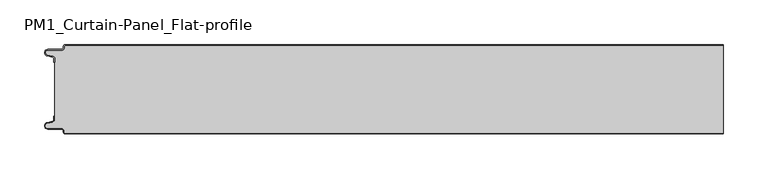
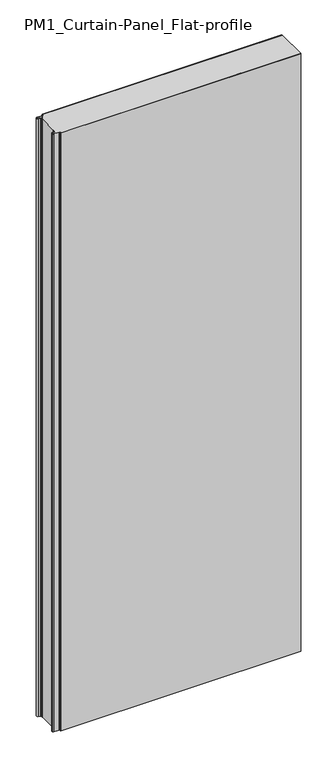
"""IFC4 building model written with IfcOpenShell, lengths in millimetres: plate geometry, PM1_Curtain-Panel_Flat-profile : ACH_PM1_Stone-wool-Panel_100M."""

from ifc_helpers import new_model, si_unit, point, frame_2d, origin, origin_with_axes, place, context, project, spatial, polyline, circle_curve, trimmed, segment, composite_curve, outline, extrude, source, transform, mapped, element, save


def pm1_curtain_panel_flat_profile_1d2014c8(model_context):
    return source(origin(), model_context, "Body", "SweptSolid", [
        extrude(outline(composite_curve([segment(trimmed(circle_curve(frame_2d((-362.4119739, -2.0)), 1.2), [point((-362.4119739, -0.8))], [point((-363.6119739, -2.0))], True, "CARTESIAN"), True, "CONTINUOUS"), segment(polyline([(-363.6119739, -2.0), (-363.6119739, -3.4)]), True, "CONTINUOUS"), segment(trimmed(circle_curve(frame_2d((-366.4119739, -3.4)), 2.8), [point((-363.6119739, -3.4))], [point((-366.4119739, -6.2))], False, "CARTESIAN"), True, "CONTINUOUS"), segment(polyline([(-366.4119739, -6.2), (-381.9119739, -6.2)]), True, "CONTINUOUS"), segment(trimmed(circle_curve(frame_2d((-381.9119739, -9.0)), 2.8), [point((-381.9119739, -6.2))], [point((-382.541837, -11.7282362))], True, "CARTESIAN"), True, "CONTINUOUS"), segment(polyline([(-382.541837, -11.7282362), (-376.3821109, -13.150321)]), True, "CONTINUOUS"), segment(trimmed(circle_curve(frame_2d((-377.0119739, -15.878557)), 2.8), [point((-376.3821109, -13.150321))], [point((-374.2119739, -15.878557))], False, "CARTESIAN"), True, "CONTINUOUS"), segment(polyline([(-374.2119739, -15.878557), (-374.2119739, -20.0), (-375.0119739, -20.0), (-375.0119739, -15.878557)]), True, "CONTINUOUS"), segment(trimmed(circle_curve(frame_2d((-377.0119739, -15.878557)), 2.0), [point((-375.0119739, -15.878557))], [point((-376.5620718, -13.9298169))], True, "CARTESIAN"), True, "CONTINUOUS"), segment(polyline([(-376.5620718, -13.9298169), (-382.7217978, -12.507732)]), True, "CONTINUOUS"), segment(trimmed(circle_curve(frame_2d((-381.9119739, -9.0)), 3.6), [point((-382.7217978, -12.507732))], [point((-381.9119739, -5.4))], False, "CARTESIAN"), True, "CONTINUOUS"), segment(polyline([(-381.9119739, -5.4), (-366.4119739, -5.4)]), True, "CONTINUOUS"), segment(trimmed(circle_curve(frame_2d((-366.4119739, -3.4)), 2.0), [point((-366.4119739, -5.4))], [point((-364.4119739, -3.4))], True, "CARTESIAN"), True, "CONTINUOUS"), segment(polyline([(-364.4119739, -3.4), (-364.4119739, -2.0)]), True, "CONTINUOUS"), segment(trimmed(circle_curve(frame_2d((-362.4119739, -2.0)), 2.0), [point((-364.4119739, -2.0))], [point((-362.4119739, 0.0))], False, "CARTESIAN"), True, "CONTINUOUS"), segment(polyline([(-362.4119739, 0.0), (375.0119739, 0.0), (375.0119739, -0.8), (-362.4119739, -0.8)]), True, "CONTINUOUS")], self_intersect=False)), origin_with_axes(), (0.0, 0.0, 1.0), 1945.7507136),
        extrude(outline(composite_curve([segment(polyline([(-374.2119739, -84.1214426), (-374.2119739, -15.8785573)]), True, "CONTINUOUS"), segment(trimmed(circle_curve(frame_2d((-377.0119739, -15.8785573)), 2.8), [point((-374.2119739, -15.8785573))], [point((-376.3821109, -13.1503212))], True, "CARTESIAN"), True, "CONTINUOUS"), segment(polyline([(-376.3821109, -13.1503212), (-382.541837, -11.7282362)]), True, "CONTINUOUS"), segment(trimmed(circle_curve(frame_2d((-381.911974, -9.0)), 2.8), [point((-382.541837, -11.7282362))], [point((-381.911974, -6.2))], False, "CARTESIAN"), True, "CONTINUOUS"), segment(polyline([(-381.911974, -6.2), (-366.411974, -6.2)]), True, "CONTINUOUS"), segment(trimmed(circle_curve(frame_2d((-366.411974, -3.4)), 2.8), [point((-366.411974, -6.2))], [point((-363.611974, -3.4))], True, "CARTESIAN"), True, "CONTINUOUS"), segment(polyline([(-363.611974, -3.4), (-363.611974, -2.0)]), True, "CONTINUOUS"), segment(trimmed(circle_curve(frame_2d((-362.411974, -2.0)), 1.2), [point((-363.611974, -2.0))], [point((-362.411974, -0.8))], False, "CARTESIAN"), True, "CONTINUOUS"), segment(polyline([(-362.411974, -0.8), (375.0119739, -0.8), (375.0119739, -99.2), (-362.411974, -99.2)]), True, "CONTINUOUS"), segment(trimmed(circle_curve(frame_2d((-362.411974, -98.0)), 1.2), [point((-362.411974, -99.2))], [point((-363.611974, -98.0))], False, "CARTESIAN"), True, "CONTINUOUS"), segment(polyline([(-363.611974, -98.0), (-363.611974, -96.6)]), True, "CONTINUOUS"), segment(trimmed(circle_curve(frame_2d((-366.411974, -96.6)), 2.8), [point((-363.611974, -96.6))], [point((-366.411974, -93.8))], True, "CARTESIAN"), True, "CONTINUOUS"), segment(polyline([(-366.411974, -93.8), (-381.911974, -93.8)]), True, "CONTINUOUS"), segment(trimmed(circle_curve(frame_2d((-381.911974, -91.0)), 2.8), [point((-381.911974, -93.8))], [point((-382.541837, -88.2717638))], False, "CARTESIAN"), True, "CONTINUOUS"), segment(polyline([(-382.541837, -88.2717638), (-376.3821109, -86.8496788)]), True, "CONTINUOUS"), segment(trimmed(circle_curve(frame_2d((-377.0119739, -84.1214426)), 2.8), [point((-376.3821109, -86.8496788))], [point((-374.2119739, -84.1214426))], True, "CARTESIAN"), True, "CONTINUOUS")], self_intersect=False)), origin_with_axes(), (0.0, 0.0, 1.0), 1945.7507136),
        extrude(outline(composite_curve([segment(trimmed(circle_curve(frame_2d((-362.4119739, -98.0)), 2.0), [point((-362.4119739, -100.0))], [point((-364.4119739, -98.0))], False, "CARTESIAN"), True, "CONTINUOUS"), segment(polyline([(-364.4119739, -98.0), (-364.4119739, -96.6)]), True, "CONTINUOUS"), segment(trimmed(circle_curve(frame_2d((-366.4119739, -96.6)), 2.0), [point((-364.4119739, -96.6))], [point((-366.4119739, -94.6))], True, "CARTESIAN"), True, "CONTINUOUS"), segment(polyline([(-366.4119739, -94.6), (-381.9119739, -94.6)]), True, "CONTINUOUS"), segment(trimmed(circle_curve(frame_2d((-381.9119739, -91.0)), 3.6), [point((-381.9119739, -94.6))], [point((-382.7217979, -87.4922678))], False, "CARTESIAN"), True, "CONTINUOUS"), segment(polyline([(-382.7217979, -87.4922678), (-376.5620718, -86.070183)]), True, "CONTINUOUS"), segment(trimmed(circle_curve(frame_2d((-377.0119739, -84.121443)), 2.0), [point((-376.5620718, -86.070183))], [point((-375.0119739, -84.121443))], True, "CARTESIAN"), True, "CONTINUOUS"), segment(polyline([(-375.0119739, -84.121443), (-375.0119739, -80.0), (-374.2119739, -80.0), (-374.2119739, -84.121443)]), True, "CONTINUOUS"), segment(trimmed(circle_curve(frame_2d((-377.0119739, -84.121443)), 2.8), [point((-374.2119739, -84.121443))], [point((-376.3821109, -86.8496792))], False, "CARTESIAN"), True, "CONTINUOUS"), segment(polyline([(-376.3821109, -86.8496792), (-382.5418369, -88.271764)]), True, "CONTINUOUS"), segment(trimmed(circle_curve(frame_2d((-381.9119739, -91.0)), 2.8), [point((-382.5418369, -88.271764))], [point((-381.9119739, -93.8))], True, "CARTESIAN"), True, "CONTINUOUS"), segment(polyline([(-381.9119739, -93.8), (-366.4119739, -93.8)]), True, "CONTINUOUS"), segment(trimmed(circle_curve(frame_2d((-366.4119739, -96.6)), 2.8), [point((-366.4119739, -93.8))], [point((-363.6119739, -96.6))], False, "CARTESIAN"), True, "CONTINUOUS"), segment(polyline([(-363.6119739, -96.6), (-363.6119739, -98.0)]), True, "CONTINUOUS"), segment(trimmed(circle_curve(frame_2d((-362.4119739, -98.0)), 1.2), [point((-363.6119739, -98.0))], [point((-362.4119739, -99.2))], True, "CARTESIAN"), True, "CONTINUOUS"), segment(polyline([(-362.4119739, -99.2), (375.0119739, -99.2), (375.0119739, -100.0), (-362.4119739, -100.0)]), True, "CONTINUOUS")], self_intersect=False)), origin_with_axes(), (0.0, 0.0, 1.0), 1945.7507136),
    ])


if __name__ == "__main__":
    model = new_model("IFC4")
    model_context = context("Model", 3, world=origin())
    ifc_project = project(units=[si_unit("LENGTHUNIT", "METRE", prefix="MILLI")], contexts=[model_context])
    site = spatial("IfcSite", under=ifc_project)
    building = spatial("IfcBuilding", under=site)
    placement = place(None, origin())
    pm1_curtain_panel_flat_profile_shape = pm1_curtain_panel_flat_profile_1d2014c8(model_context)
    element("IfcPlate", 1, ObjectType="PM1_Curtain-Panel_Flat-profile : ACH_PM1_Stone-wool-Panel_100M", at=placement, inside=building, context=model_context, shape_type="MappedRepresentation", body=[
        mapped(pm1_curtain_panel_flat_profile_shape, transform((0.0, 0.0, 0.0), x_axis=(1.0, 0.0, 0.0), y_axis=(0.0, 1.0, 0.0), z_axis=(0.0, 0.0, 1.0))),
    ])
    save(model, "model.ifc")
